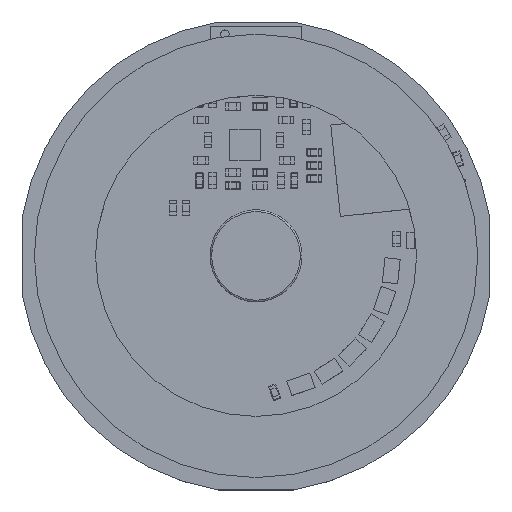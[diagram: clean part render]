
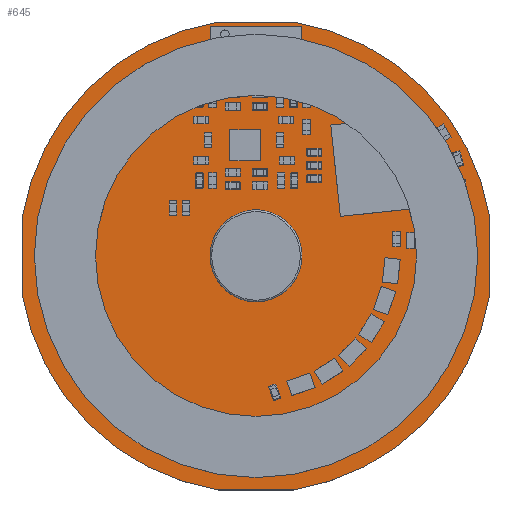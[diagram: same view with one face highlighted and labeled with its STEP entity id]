
A CAD part, top view. The second image highlights one B-rep face of the part: STEP entity #645.
In plain terms, the highlighted planar face has unit normal (0, 0, 1).
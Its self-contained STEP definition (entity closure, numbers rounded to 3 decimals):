
#62=DIRECTION('',(0.,1.,0.));
#63=VECTOR('',#62,4.924);
#64=CARTESIAN_POINT('',(-15.303,-2.462,0.624));
#65=LINE('',#64,#63);
#69=CARTESIAN_POINT('',(0.,0.,0.624));
#70=DIRECTION('',(0.,0.,-1.));
#71=DIRECTION('',(-0.987,0.159,0.));
#72=AXIS2_PLACEMENT_3D('',#69,#70,#71);
#77=DIRECTION('',(1.,0.,0.));
#78=VECTOR('',#77,4.924);
#79=CARTESIAN_POINT('',(-2.462,15.303,0.624));
#80=LINE('',#79,#78);
#84=CARTESIAN_POINT('',(0.001,0.002,0.624));
#85=DIRECTION('',(0.,0.,-1.));
#86=DIRECTION('',(0.159,0.987,0.));
#87=AXIS2_PLACEMENT_3D('',#84,#85,#86);
#92=DIRECTION('',(0.,-1.,0.));
#93=VECTOR('',#92,4.924);
#94=CARTESIAN_POINT('',(15.302,2.461,0.624));
#95=LINE('',#94,#93);
#99=CARTESIAN_POINT('',(0.,0.,0.624));
#100=DIRECTION('',(0.,0.,-1.));
#101=DIRECTION('',(0.987,-0.159,0.));
#102=AXIS2_PLACEMENT_3D('',#99,#100,#101);
#107=DIRECTION('',(-1.,0.,0.));
#108=VECTOR('',#107,4.924);
#109=CARTESIAN_POINT('',(2.462,-15.303,0.624));
#110=LINE('',#109,#108);
#114=CARTESIAN_POINT('',(0.,0.,0.624));
#115=DIRECTION('',(0.,0.,-1.));
#116=DIRECTION('',(-0.159,-0.987,0.));
#117=AXIS2_PLACEMENT_3D('',#114,#115,#116);
#122=CARTESIAN_POINT('',(-9.546,9.546,0.624));
#123=DIRECTION('',(0.,0.,-1.));
#124=DIRECTION('',(1.,0.,0.));
#125=AXIS2_PLACEMENT_3D('',#122,#123,#124);
#130=CARTESIAN_POINT('',(-9.546,9.546,0.624));
#131=DIRECTION('',(0.,0.,-1.));
#132=DIRECTION('',(-1.,0.,0.));
#133=AXIS2_PLACEMENT_3D('',#130,#131,#132);
#138=CARTESIAN_POINT('',(-6.75,11.691,0.624));
#139=DIRECTION('',(0.,0.,-1.));
#140=DIRECTION('',(1.,0.,0.));
#141=AXIS2_PLACEMENT_3D('',#138,#139,#140);
#146=CARTESIAN_POINT('',(-6.75,11.691,0.624));
#147=DIRECTION('',(0.,0.,-1.));
#148=DIRECTION('',(-1.,0.,0.));
#149=AXIS2_PLACEMENT_3D('',#146,#147,#148);
#154=CARTESIAN_POINT('',(-6.75,-11.691,0.624));
#155=DIRECTION('',(0.,0.,-1.));
#156=DIRECTION('',(1.,0.,0.));
#157=AXIS2_PLACEMENT_3D('',#154,#155,#156);
#162=CARTESIAN_POINT('',(-6.75,-11.691,0.624));
#163=DIRECTION('',(0.,0.,-1.));
#164=DIRECTION('',(-1.,0.,0.));
#165=AXIS2_PLACEMENT_3D('',#162,#163,#164);
#170=CARTESIAN_POINT('',(6.75,-11.691,0.624));
#171=DIRECTION('',(0.,0.,-1.));
#172=DIRECTION('',(1.,0.,0.));
#173=AXIS2_PLACEMENT_3D('',#170,#171,#172);
#178=CARTESIAN_POINT('',(6.75,-11.691,0.624));
#179=DIRECTION('',(0.,0.,-1.));
#180=DIRECTION('',(-1.,0.,0.));
#181=AXIS2_PLACEMENT_3D('',#178,#179,#180);
#186=CARTESIAN_POINT('',(13.5,0.,0.624));
#187=DIRECTION('',(0.,0.,-1.));
#188=DIRECTION('',(1.,0.,0.));
#189=AXIS2_PLACEMENT_3D('',#186,#187,#188);
#194=CARTESIAN_POINT('',(13.5,0.,0.624));
#195=DIRECTION('',(0.,0.,-1.));
#196=DIRECTION('',(-1.,0.,0.));
#197=AXIS2_PLACEMENT_3D('',#194,#195,#196);
#439=CARTESIAN_POINT('',(-15.303,-2.462,0.624));
#440=CARTESIAN_POINT('',(-15.303,2.462,0.624));
#441=VERTEX_POINT('',#439);
#442=VERTEX_POINT('',#440);
#443=CARTESIAN_POINT('',(-2.462,15.303,0.624));
#444=VERTEX_POINT('',#443);
#445=CARTESIAN_POINT('',(2.462,15.303,0.624));
#446=VERTEX_POINT('',#445);
#447=CARTESIAN_POINT('',(15.302,2.46,0.624));
#448=VERTEX_POINT('',#447);
#449=CARTESIAN_POINT('',(15.303,-2.463,0.624));
#450=VERTEX_POINT('',#449);
#451=CARTESIAN_POINT('',(2.462,-15.303,0.624));
#452=VERTEX_POINT('',#451);
#453=CARTESIAN_POINT('',(-2.462,-15.303,0.624));
#454=VERTEX_POINT('',#453);
#455=CARTESIAN_POINT('',(-8.946,9.546,0.624));
#456=CARTESIAN_POINT('',(-10.146,9.546,0.624));
#457=VERTEX_POINT('',#455);
#458=VERTEX_POINT('',#456);
#459=CARTESIAN_POINT('',(-5.75,11.691,0.624));
#460=CARTESIAN_POINT('',(-7.75,11.691,0.624));
#461=VERTEX_POINT('',#459);
#462=VERTEX_POINT('',#460);
#463=CARTESIAN_POINT('',(-5.75,-11.691,0.624));
#464=CARTESIAN_POINT('',(-7.75,-11.691,0.624));
#465=VERTEX_POINT('',#463);
#466=VERTEX_POINT('',#464);
#467=CARTESIAN_POINT('',(7.35,-11.691,0.624));
#468=CARTESIAN_POINT('',(6.15,-11.691,0.624));
#469=VERTEX_POINT('',#467);
#470=VERTEX_POINT('',#468);
#471=CARTESIAN_POINT('',(14.5,0.,0.624));
#472=CARTESIAN_POINT('',(12.5,0.,0.624));
#473=VERTEX_POINT('',#471);
#474=VERTEX_POINT('',#472);
#594=CARTESIAN_POINT('',(-15.303,-2.462,0.624));
#595=DIRECTION('',(0.,0.,1.));
#596=DIRECTION('',(1.,0.,0.));
#597=AXIS2_PLACEMENT_3D('',#594,#595,#596);
#598=PLANE('',#597);
#599=ORIENTED_EDGE('',*,*,#520,.T.);
#601=ORIENTED_EDGE('',*,*,#600,.T.);
#603=ORIENTED_EDGE('',*,*,#602,.T.);
#605=ORIENTED_EDGE('',*,*,#604,.T.);
#607=ORIENTED_EDGE('',*,*,#606,.T.);
#609=ORIENTED_EDGE('',*,*,#608,.T.);
#611=ORIENTED_EDGE('',*,*,#610,.T.);
#612=ORIENTED_EDGE('',*,*,#587,.T.);
#613=EDGE_LOOP('',(#599,#601,#603,#605,#607,#609,#611,#612));
#614=FACE_OUTER_BOUND('',#613,.F.);
#616=ORIENTED_EDGE('',*,*,#615,.F.);
#618=ORIENTED_EDGE('',*,*,#617,.F.);
#619=EDGE_LOOP('',(#616,#618));
#620=FACE_BOUND('',#619,.F.);
#622=ORIENTED_EDGE('',*,*,#621,.F.);
#624=ORIENTED_EDGE('',*,*,#623,.F.);
#625=EDGE_LOOP('',(#622,#624));
#626=FACE_BOUND('',#625,.F.);
#628=ORIENTED_EDGE('',*,*,#627,.F.);
#630=ORIENTED_EDGE('',*,*,#629,.F.);
#631=EDGE_LOOP('',(#628,#630));
#632=FACE_BOUND('',#631,.F.);
#634=ORIENTED_EDGE('',*,*,#633,.F.);
#636=ORIENTED_EDGE('',*,*,#635,.F.);
#637=EDGE_LOOP('',(#634,#636));
#638=FACE_BOUND('',#637,.F.);
#640=ORIENTED_EDGE('',*,*,#639,.F.);
#642=ORIENTED_EDGE('',*,*,#641,.F.);
#643=EDGE_LOOP('',(#640,#642));
#644=FACE_BOUND('',#643,.F.);
#645=ADVANCED_FACE('',(#614,#620,#626,#632,#638,#644),#598,.T.);
#73=CIRCLE('',#72,15.5);
#88=CIRCLE('',#87,15.497);
#103=CIRCLE('',#102,15.5);
#118=CIRCLE('',#117,15.5);
#126=CIRCLE('',#125,0.6);
#134=CIRCLE('',#133,0.6);
#142=CIRCLE('',#141,1.);
#150=CIRCLE('',#149,1.);
#158=CIRCLE('',#157,1.);
#166=CIRCLE('',#165,1.);
#174=CIRCLE('',#173,0.6);
#182=CIRCLE('',#181,0.6);
#190=CIRCLE('',#189,1.);
#198=CIRCLE('',#197,1.);
#520=EDGE_CURVE('',#441,#442,#65,.T.);
#587=EDGE_CURVE('',#454,#441,#118,.T.);
#600=EDGE_CURVE('',#442,#444,#73,.T.);
#602=EDGE_CURVE('',#444,#446,#80,.T.);
#604=EDGE_CURVE('',#446,#448,#88,.T.);
#606=EDGE_CURVE('',#448,#450,#95,.T.);
#608=EDGE_CURVE('',#450,#452,#103,.T.);
#610=EDGE_CURVE('',#452,#454,#110,.T.);
#615=EDGE_CURVE('',#457,#458,#126,.T.);
#617=EDGE_CURVE('',#458,#457,#134,.T.);
#621=EDGE_CURVE('',#461,#462,#142,.T.);
#623=EDGE_CURVE('',#462,#461,#150,.T.);
#627=EDGE_CURVE('',#465,#466,#158,.T.);
#629=EDGE_CURVE('',#466,#465,#166,.T.);
#633=EDGE_CURVE('',#469,#470,#174,.T.);
#635=EDGE_CURVE('',#470,#469,#182,.T.);
#639=EDGE_CURVE('',#473,#474,#190,.T.);
#641=EDGE_CURVE('',#474,#473,#198,.T.);
